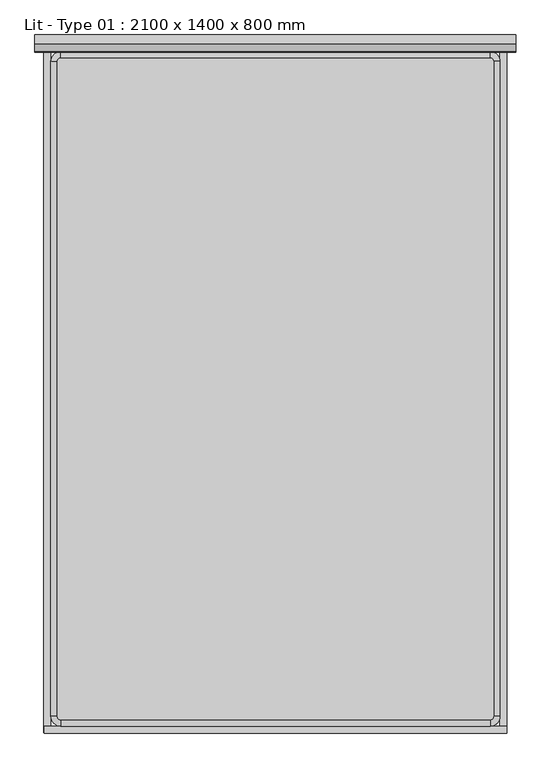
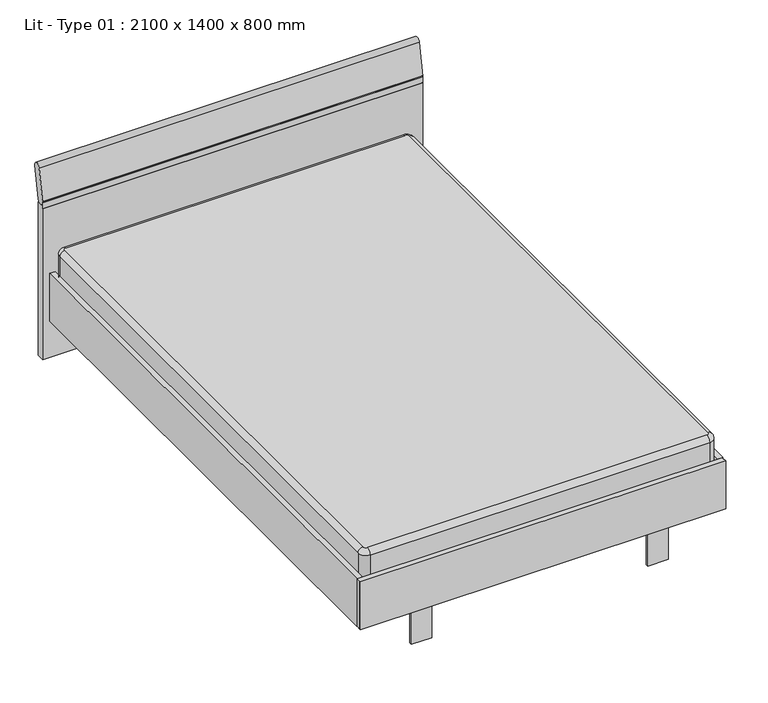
"""IFC4 building model written with IfcOpenShell, lengths in millimetres: furniture geometry, Lit - Type 01 : 2100 x 1400 x 800 mm."""

from ifc_helpers import new_model, si_unit, point, frame, frame_2d, origin, origin_with_axes, place, context, project, spatial, polyline, circle_curve, ellipse_curve, trimmed, segment, composite_curve, outline, extrude, faceted_brep, source, transform, mapped, element, save
from ifc_brep_helpers import plane_surface, cylinder_surface, revolved_surface, advanced_brep


def lit_type_01_2100_x_1400_x_800_mm_113f65d7(model_context):
    return source(origin(), model_context, "Body", "SolidModel", [
        faceted_brep([(720.5857864, -2122.0, 150.0), (720.5857864, -2122.0, 350.0), (-720.5857864, -2122.0, 350.0), (-720.5857864, -2122.0, 150.0), (720.5857864, -2100.0, 350.0), (720.5857864, -2100.0, 150.0), (-720.5857864, -2100.0, 150.0), (-720.5857864, -2100.0, 350.0), (722.0, -2101.4142136, 348.5857864), (722.0, -2120.5857864, 348.5857864), (722.0, -2120.5857864, 151.4142136), (722.0, -2101.4142136, 151.4142136), (-722.0, -2120.5857864, 348.5857864), (-722.0, -2101.4142136, 348.5857864), (-722.0, -2101.4142136, 151.4142136), (-722.0, -2120.5857864, 151.4142136)], [[[0, 1, 2, 3]], [[4, 5, 6, 7]], [[8, 9, 10, 11]], [[5, 0, 3, 6]], [[12, 13, 14, 15]], [[1, 4, 7, 2]], [[8, 4, 1, 9]], [[4, 8, 11, 5]], [[5, 11, 10, 0]], [[9, 1, 0, 10]], [[12, 2, 7, 13]], [[2, 12, 15, 3]], [[3, 15, 14, 6]], [[13, 7, 6, 14]]]),
        extrude(outline(polyline([(-722.0, 0.0), (-700.0, 0.0), (-700.0, -2100.0), (-720.5857864, -2100.0), (-722.0, -2098.5857864), (-722.0, 0.0)])), frame((0.0, 0.0, 150.0), z_axis=(0.0, 0.0, 1.0), x_axis=(1.0, 0.0, 0.0)), (0.0, 0.0, 1.0), 200.0),
        extrude(outline(polyline([(700.0, 0.0), (722.0, 0.0), (722.0, -2098.5857864), (720.5857864, -2100.0), (700.0, -2100.0), (700.0, 0.0)])), frame((0.0, 0.0, 150.0), z_axis=(0.0, 0.0, 1.0), x_axis=(1.0, 0.0, 0.0)), (0.0, 0.0, 1.0), 200.0),
        advanced_brep(
        [(-680.0, -2070.0, 450.0), (-670.0, -2080.0, 450.0), (670.0, -2080.0, 450.0), (680.0, -2070.0, 450.0), (680.0, -30.0, 450.0), (670.0, -20.0, 450.0), (-670.0, -20.0, 450.0), (-680.0, -30.0, 450.0), (670.0, 0.0, 200.0), (700.0, -30.0, 200.0), (700.0, -2070.0, 200.0), (670.0, -2100.0, 200.0), (-670.0, -2100.0, 200.0), (-700.0, -2070.0, 200.0), (-700.0, -30.0, 200.0), (-670.0, 0.0, 200.0), (-670.0, 0.0, 430.0), (670.0, 0.0, 430.0), (-700.0, -30.0, 429.9999998), (-700.0, -2070.0, 429.9999998), (-670.0, -2100.0, 429.9999998), (670.0, -2100.0, 430.0), (700.0, -2070.0, 429.9999998), (700.0, -30.0, 430.0)],
        [
            (0, 1, circle_curve(frame((-670.0, -2070.0, 450.0), z_axis=(0.0, 0.0, 1.0), x_axis=(-1.0, 0.0, 0.0)), 10.0)),
            (1, 2),
            (2, 3, circle_curve(frame((670.0, -2070.0, 450.0), z_axis=(0.0, 0.0, 1.0), x_axis=(0.0, -1.0, 0.0)), 10.0)),
            (3, 4),
            (4, 5, circle_curve(frame((670.0, -30.0, 450.0), z_axis=(0.0, 0.0, 1.0), x_axis=(1.0, 0.0, 0.0)), 10.0)),
            (5, 6),
            (6, 7, circle_curve(frame((-670.0, -30.0, 450.0), z_axis=(0.0, 0.0, 1.0), x_axis=(0.0, 1.0, 0.0)), 10.0)),
            (7, 0),
            (8, 9, circle_curve(frame((670.0, -30.0, 200.0), z_axis=(0.0, 0.0, -1.0), x_axis=(-1.0, 0.0, 0.0)), 30.0)),
            (9, 10),
            (10, 11, circle_curve(frame((670.0, -2070.0, 200.0), z_axis=(0.0, 0.0, -1.0), x_axis=(-1.0, 0.0, 0.0)), 30.0)),
            (11, 12),
            (12, 13, circle_curve(frame((-670.0, -2070.0, 200.0), z_axis=(0.0, 0.0, -1.0), x_axis=(-1.0, 0.0, 0.0)), 30.0)),
            (13, 14),
            (14, 15, circle_curve(frame((-670.0, -30.0, 200.0), z_axis=(0.0, 0.0, -1.0), x_axis=(-1.0, 0.0, 0.0)), 30.0)),
            (15, 8),
            (15, 16),
            (16, 17),
            (17, 8),
            (14, 18),
            (18, 16, circle_curve(frame((-670.0, -30.0, 430.0), z_axis=(0.0, 0.0, -1.0), x_axis=(-1.0, 0.0, 0.0)), 30.0)),
            (13, 19),
            (19, 18),
            (12, 20),
            (20, 19, circle_curve(frame((-670.0, -2070.0, 430.0), z_axis=(0.0, 0.0, -1.0), x_axis=(-1.0, 0.0, 0.0)), 30.0)),
            (11, 21),
            (21, 20),
            (10, 22),
            (22, 21, circle_curve(frame((670.0, -2070.0, 430.0), z_axis=(0.0, 0.0, -1.0), x_axis=(-1.0, 0.0, 0.0)), 30.0)),
            (9, 23),
            (23, 22),
            (17, 23, circle_curve(frame((670.0, -30.0, 430.0), z_axis=(0.0, 0.0, -1.0), x_axis=(-1.0, 0.0, 0.0)), 30.0)),
            (20, 1, circle_curve(frame((-670.0, -2080.0, 430.0), z_axis=(-1.0, 0.0, 0.0), x_axis=(0.0, 1.0, 0.0)), 20.0)),
            (0, 19, circle_curve(frame((-680.0, -2070.0, 430.0), z_axis=(0.0, -1.0, 0.0), x_axis=(1.0, 0.0, 0.0)), 20.0)),
            (21, 2, circle_curve(frame((670.0, -2080.0, 430.0), z_axis=(-1.0, 0.0, 0.0), x_axis=(0.0, 1.0, 0.0)), 20.0)),
            (22, 3, circle_curve(frame((680.0, -2070.0, 430.0), z_axis=(0.0, -1.0, 0.0), x_axis=(-1.0, 0.0, 0.0)), 20.0)),
            (23, 4, circle_curve(frame((680.0, -30.0, 430.0), z_axis=(0.0, -1.0, 0.0), x_axis=(-1.0, 0.0, 0.0)), 20.0)),
            (17, 5, circle_curve(frame((670.0, -20.0, 430.0), z_axis=(1.0, 0.0, 0.0), x_axis=(0.0, -1.0, 0.0)), 20.0)),
            (16, 6, circle_curve(frame((-670.0, -20.0, 430.0), z_axis=(1.0, 0.0, 0.0), x_axis=(0.0, -1.0, 0.0)), 20.0)),
            (18, 7, circle_curve(frame((-680.0, -30.0, 430.0), z_axis=(0.0, 1.0, 0.0), x_axis=(1.0, 0.0, 0.0)), 20.0)),
        ],
        [
            plane_surface(frame((-670.0, 0.0, 450.0), z_axis=(0.0, 0.0, 1.0), x_axis=(-1.0, 0.0, 0.0))),
            plane_surface(frame((-670.0, 0.0, 200.0), z_axis=(0.0, 0.0, -1.0), x_axis=(1.0, 0.0, 0.0))),
            plane_surface(frame((670.0, 0.0, 450.0), z_axis=(0.0, 1.0, 0.0), x_axis=(0.0, 0.0, -1.0))),
            cylinder_surface(frame((-670.0, -30.0, 200.0), z_axis=(0.0, 0.0, 1.0), x_axis=(-1.0, 0.0, 0.0)), 30.0),
            plane_surface(frame((-700.0, -30.0, 450.0), z_axis=(-1.0, 0.0, 0.0), x_axis=(0.0, 0.0, -1.0))),
            cylinder_surface(frame((-670.0, -2070.0, 200.0), z_axis=(0.0, 0.0, 1.0), x_axis=(-1.0, 0.0, 0.0)), 30.0),
            plane_surface(frame((-670.0, -2100.0, 450.0), z_axis=(0.0, -1.0, 0.0), x_axis=(0.0, 0.0, -1.0))),
            cylinder_surface(frame((670.0, -2070.0, 200.0), z_axis=(0.0, 0.0, 1.0), x_axis=(-1.0, 0.0, 0.0)), 30.0),
            plane_surface(frame((700.0, -2070.0, 450.0), z_axis=(1.0, 0.0, 0.0), x_axis=(0.0, 0.0, -1.0))),
            cylinder_surface(frame((670.0, -30.0, 200.0), z_axis=(0.0, 0.0, 1.0), x_axis=(-1.0, 0.0, 0.0)), 30.0),
            revolved_surface(trimmed(ellipse_curve(frame((-680.0, -2070.0, 430.0), z_axis=(0.0, 1.0, 0.0), x_axis=(1.0, 0.0, 0.0)), 20.0, 20.0), [point((-700.0, -2070.0, 430.0))], [point((-680.0, -2070.0, 450.0))], True, "CARTESIAN"), (-670.0, -2070.0, 450.0), (0.0, 0.0, 1.0)),
            cylinder_surface(frame((-670.0, -2080.0, 430.0), z_axis=(1.0, 0.0, 0.0), x_axis=(0.0, 1.0, 0.0)), 20.0),
            revolved_surface(trimmed(ellipse_curve(frame((670.0, -2080.0, 430.0), z_axis=(-1.0, 0.0, 0.0), x_axis=(0.0, 1.0, 0.0)), 20.0, 20.0), [point((670.0, -2100.0, 430.0))], [point((670.0, -2080.0, 450.0))], True, "CARTESIAN"), (670.0, -2070.0, 450.0), (0.0, 0.0, 1.0)),
            cylinder_surface(frame((680.0, -2070.0, 430.0), z_axis=(0.0, 1.0, 0.0), x_axis=(-1.0, 0.0, 0.0)), 20.0),
            revolved_surface(trimmed(ellipse_curve(frame((680.0, -30.0, 430.0), z_axis=(0.0, -1.0, 0.0), x_axis=(-1.0, 0.0, 0.0)), 20.0, 20.0), [point((700.0, -30.0, 430.0))], [point((680.0, -30.0, 450.0))], True, "CARTESIAN"), (670.0, -30.0, 450.0), (0.0, 0.0, 1.0)),
            cylinder_surface(frame((670.0, -20.0, 430.0), z_axis=(-1.0, 0.0, 0.0), x_axis=(0.0, -1.0, 0.0)), 20.0),
            revolved_surface(trimmed(ellipse_curve(frame((-670.0, -20.0, 430.0), z_axis=(1.0, 0.0, 0.0), x_axis=(0.0, -1.0, 0.0)), 20.0, 20.0), [point((-670.0, 0.0, 430.0))], [point((-670.0, -20.0, 450.0))], True, "CARTESIAN"), (-670.0, -30.0, 450.0), (0.0, 0.0, 1.0)),
            cylinder_surface(frame((-680.0, -30.0, 430.0), z_axis=(0.0, -1.0, 0.0), x_axis=(1.0, 0.0, 0.0)), 20.0),
        ],
        [
            (0, [[1, 2, 3, 4, 5, 6, 7, 8]]),
            (1, [[9, 10, 11, 12, 13, 14, 15, 16]]),
            (2, [[-16, 17, 18, 19]]),
            (3, [[-15, 20, 21, -17]]),
            (4, [[-14, 22, 23, -20]]),
            (5, [[-13, 24, 25, -22]]),
            (6, [[-12, 26, 27, -24]]),
            (7, [[-11, 28, 29, -26]]),
            (8, [[-10, 30, 31, -28]]),
            (9, [[-9, -19, 32, -30]]),
            (10, [[33, -1, 34, -25]]),
            (11, [[-33, -27, 35, -2]]),
            (12, [[-35, -29, 36, -3]]),
            (13, [[-36, -31, 37, -4]]),
            (14, [[-37, -32, 38, -5]]),
            (15, [[-38, -18, 39, -6]]),
            (16, [[-39, -21, 40, -7]]),
            (17, [[-34, -8, -40, -23]]),
        ],
    ),
        extrude(outline(composite_curve([segment(trimmed(circle_curve(frame_2d((37.5742631, 782.9795436)), 15.0), [point((22.8021468, 785.5842662))], [point((52.3463794, 780.3748209))], False, "CARTESIAN"), True, "CONTINUOUS"), segment(polyline([(52.3463794, 780.3748209), (29.7721163, 652.349813)]), True, "CONTINUOUS"), segment(trimmed(circle_curve(frame_2d((15.0, 654.9545357)), 15.0), [point((29.7721163, 652.349813))], [point((0.2278837, 657.5592583))], False, "CARTESIAN"), True, "CONTINUOUS"), segment(polyline([(0.2278837, 657.5592583), (22.8021468, 785.5842662)]), True, "CONTINUOUS")], self_intersect=False)), frame((-750.0, 0.0, 0.0), z_axis=(1.0, 0.0, 0.0), x_axis=(0.0, 1.0, 0.0)), (0.0, 0.0, 1.0), 1500.0),
        extrude(outline(polyline([(-750.0, 30.0), (750.0, 30.0), (750.0, 0.0), (-750.0, 0.0), (-750.0, 30.0)])), origin_with_axes(), (0.0, 0.0, 1.0), 640.0),
        extrude(outline(composite_curve([segment(polyline([(-2090.0, 0.0), (-2100.0, 0.0), (-2100.0, 185.0)]), True, "CONTINUOUS"), segment(trimmed(circle_curve(frame_2d((-2085.0, 185.0)), 15.0), [point((-2100.0, 185.0))], [point((-2085.0, 200.0))], False, "CARTESIAN"), True, "CONTINUOUS"), segment(polyline([(-2085.0, 200.0), (0.0, 200.0), (0.0, 190.0), (-2085.0, 190.0)]), True, "CONTINUOUS"), segment(trimmed(circle_curve(frame_2d((-2085.0, 185.0)), 5.0), [point((-2085.0, 190.0))], [point((-2090.0, 185.0))], True, "CARTESIAN"), True, "CONTINUOUS"), segment(polyline([(-2090.0, 185.0), (-2090.0, 0.0)]), True, "CONTINUOUS")], self_intersect=False)), frame((-506.6666667, 0.0, 0.0), z_axis=(1.0, 0.0, 0.0), x_axis=(0.0, 1.0, 0.0)), (0.0, 0.0, 1.0), 80.0),
        extrude(outline(composite_curve([segment(polyline([(-2090.0, 0.0), (-2100.0, 0.0), (-2100.0, 185.0)]), True, "CONTINUOUS"), segment(trimmed(circle_curve(frame_2d((-2085.0, 185.0)), 15.0), [point((-2100.0, 185.0))], [point((-2085.0, 200.0))], False, "CARTESIAN"), True, "CONTINUOUS"), segment(polyline([(-2085.0, 200.0), (0.0, 200.0), (0.0, 190.0), (-2085.0, 190.0)]), True, "CONTINUOUS"), segment(trimmed(circle_curve(frame_2d((-2085.0, 185.0)), 5.0), [point((-2085.0, 190.0))], [point((-2090.0, 185.0))], True, "CARTESIAN"), True, "CONTINUOUS"), segment(polyline([(-2090.0, 185.0), (-2090.0, 0.0)]), True, "CONTINUOUS")], self_intersect=False)), frame((426.6666667, 0.0, 0.0), z_axis=(1.0, 0.0, 0.0), x_axis=(0.0, 1.0, 0.0)), (0.0, 0.0, 1.0), 80.0),
        extrude(outline(composite_curve([segment(polyline([(0.0, 640.0), (0.0, 630.0), (-1.2985029, 630.0), (-2.0085632, 630.7100603), (-2.0085632, 656.5656482), (-1.5049835, 659.4215904), (-0.68241, 659.9975626), (0.5961594, 659.7721163), (0.2042296, 657.4213512)]), True, "CONTINUOUS"), segment(trimmed(circle_curve(frame_2d((15.0, 654.9545357)), 15.0), [point((0.2042296, 657.4213512))], [point((13.8330112, 640.0))], True, "CARTESIAN"), True, "CONTINUOUS"), segment(polyline([(13.8330112, 640.0), (0.0, 640.0)]), True, "CONTINUOUS")], self_intersect=False)), frame((-750.0, 0.0, 0.0), z_axis=(1.0, 0.0, 0.0), x_axis=(0.0, 1.0, 0.0)), (0.0, 0.0, 1.0), 1500.0),
    ])


if __name__ == "__main__":
    model = new_model("IFC4")
    model_context = context("Model", 3, world=origin())
    ifc_project = project(units=[si_unit("LENGTHUNIT", "METRE", prefix="MILLI")], contexts=[model_context])
    site = spatial("IfcSite", under=ifc_project)
    building = spatial("IfcBuilding", under=site)
    placement = place(None, origin())
    lit_type_01_2100_x_1400_x_800_mm_shape = lit_type_01_2100_x_1400_x_800_mm_113f65d7(model_context)
    element("IfcFurniture", 1, ObjectType="Lit - Type 01 : 2100 x 1400 x 800 mm", at=placement, inside=building, context=model_context, shape_type="MappedRepresentation", body=[
        mapped(lit_type_01_2100_x_1400_x_800_mm_shape, transform((0.0, 0.0, 0.0), x_axis=(1.0, 0.0, 0.0), y_axis=(0.0, 1.0, 0.0), z_axis=(0.0, 0.0, 1.0))),
    ])
    save(model, "model.ifc")
